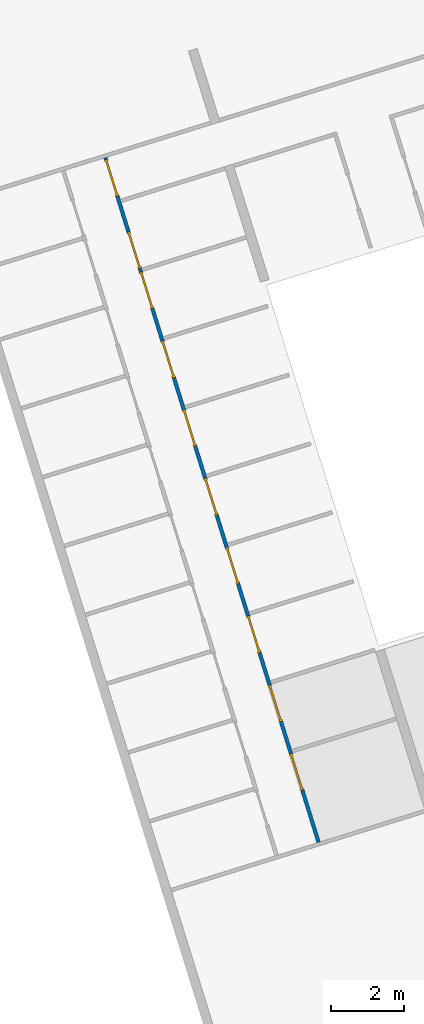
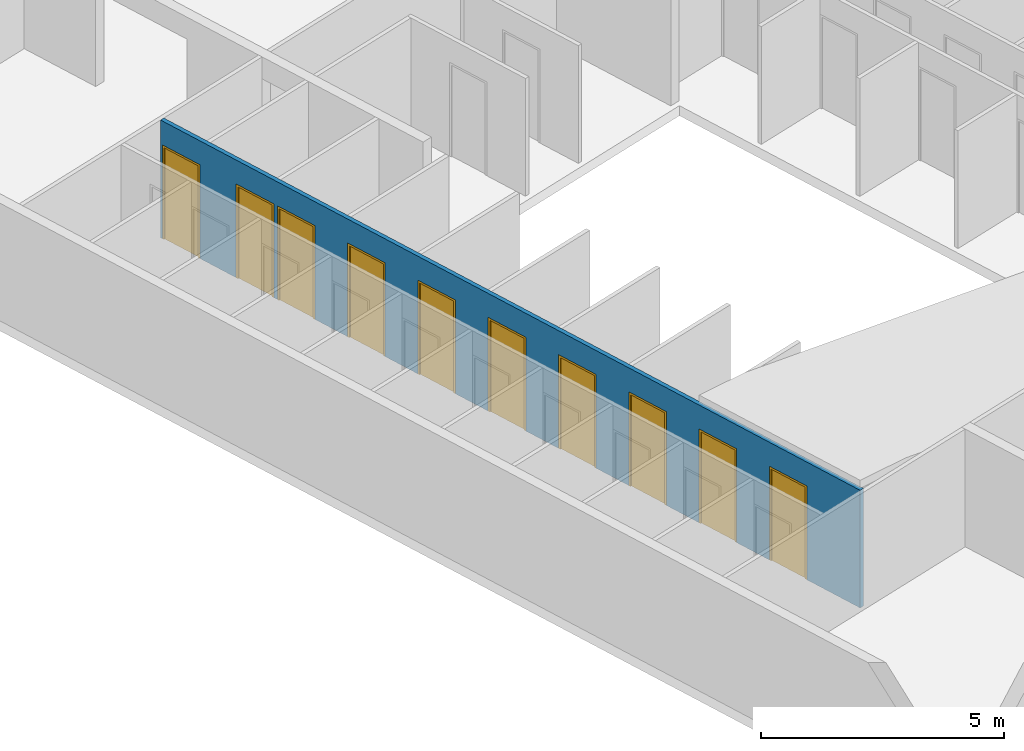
# One storey, part 5 of 7: 10 doors, 1 wall, 10 openings.
"""IFC4 building model written with IfcOpenShell, lengths in metres."""

from ifc_helpers import new_model, entity, si_unit, converted_unit, direction, frame, origin, place, context, subcontext, project, spatial, indexed_curve, outline, extrude, polygons, source, transform, mapped, material, constituent, constituent_set, type_object, element, fill, save


model = new_model("IFC4")

# Units and contexts
model_context = context("Model", 3, precision=1e-05, world=origin(), true_north=direction((6.12323399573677e-17, 1.0)))
body_context = subcontext(model_context, "Body", "Model", "MODEL_VIEW")
ifc_project = project(units=[si_unit("LENGTHUNIT", "METRE"), si_unit("AREAUNIT", "SQUARE_METRE"), si_unit("VOLUMEUNIT", "CUBIC_METRE"), converted_unit("PLANEANGLEUNIT", "DEGREE", entity("IfcPlaneAngleMeasure", 0.0174532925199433), si_unit("PLANEANGLEUNIT", "RADIAN"), dimensions=[0, 0, 0, 0, 0, 0, 0])], contexts=[model_context])

# Site, building, storey
site_placement = place(None, frame((13.1347999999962, 11.9886000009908, 0.0), z_axis=(0.0, 0.0, 1.0), x_axis=(0.954770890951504, 0.297342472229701, 0.0)))
site = spatial("IfcSite", under=ifc_project, at=site_placement, Name="Schiehaven", CompositionType="ELEMENT")
building_placement = place(site_placement, origin())
building = spatial("IfcBuilding", under=site, at=building_placement, Name="VORM huis", CompositionType="ELEMENT")
storey_placement = place(building_placement, frame((0.0, 0.0, -3.2)))
storey = spatial("IfcBuildingStorey", under=building, at=storey_placement, Name="-1 kelder", CompositionType="ELEMENT", Elevation=-3.2)

# Wall, openings, doors
ifc_material_1 = material(Name="ntb_ntb_ntb", Category="Miscellaneous")
wall_type = type_object("IfcWallType", Name="Basic Wall:22_WA_afbouw_binnenwand 100mm_gen", PredefinedType="STANDARD")
wall_placement = place(storey_placement, frame((9.35000000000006, 26.8249999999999, 0.0), z_axis=(0.0, 0.0, 1.0), x_axis=(0.0, -1.0, 0.0)))
wall = element("IfcWall", 1, at=wall_placement, inside=storey, type_object=wall_type, material=ifc_material_1, Name="Binnenwand", ObjectType="Wand", PredefinedType="NOTDEFINED", context=body_context, shape_type="Tessellation", body=[
    polygons([(14.1357142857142, -0.050000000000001, 0.0), (15.0499999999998, -0.0499999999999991, 0.0), (15.0499999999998, -0.0499999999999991, 2.34999999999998), (16.0999999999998, -0.0500000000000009, 2.34999999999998), (16.0999999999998, -0.0500000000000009, 0.0), (17.0142857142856, -0.049999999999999, 0.0), (17.0142857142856, -0.049999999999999, 2.34999999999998), (18.0642857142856, -0.0500000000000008, 2.34999999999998), (18.0642857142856, -0.0500000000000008, 0.0), (19.5499999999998, -0.0500000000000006, 0.0), (19.5499999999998, -0.0500000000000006, 2.95), (8.66293703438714e-15, -0.0500000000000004, 2.95), (0.0, -0.0500000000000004, 0.0), (0.0500000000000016, -0.0500000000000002, 0.0), (0.0500000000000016, -0.0500000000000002, 2.34999999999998), (1.10000000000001, -0.0499999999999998, 2.34999999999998), (1.10000000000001, -0.0499999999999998, 0.0), (2.1142857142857, -0.0500000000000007, 0.0), (2.11428571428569, -0.0500000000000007, 2.34999999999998), (3.1642857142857, -0.0500000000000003, 2.34999999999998), (3.1642857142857, -0.0500000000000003, 0.0), (3.26428571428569, -0.0499999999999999, 0.0), (3.26428571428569, -0.0499999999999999, 2.34999999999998), (4.31428571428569, -0.0500000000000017, 2.34999999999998), (4.31428571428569, -0.0500000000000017, 0.0), (5.22857142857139, -0.0499999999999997, 0.0), (5.22857142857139, -0.0499999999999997, 2.34999999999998), (6.27857142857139, -0.0500000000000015, 2.34999999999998), (6.27857142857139, -0.0500000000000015, 0.0), (7.19285714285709, -0.0499999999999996, 0.0), (7.19285714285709, -0.0499999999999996, 2.34999999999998), (8.24285714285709, -0.0500000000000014, 2.34999999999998), (8.24285714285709, -0.0500000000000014, 0.0), (9.15714285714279, -0.0499999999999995, 0.0), (9.15714285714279, -0.0499999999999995, 2.34999999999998), (10.2071428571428, -0.0500000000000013, 2.34999999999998), (10.2071428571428, -0.0500000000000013, 0.0), (11.1214285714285, -0.0499999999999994, 0.0), (11.1214285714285, -0.0499999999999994, 2.34999999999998), (12.1714285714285, -0.0500000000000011, 2.34999999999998), (12.1714285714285, -0.0500000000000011, 0.0), (13.0857142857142, -0.0499999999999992, 0.0), (13.0857142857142, -0.0499999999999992, 2.34999999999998), (14.1357142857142, -0.050000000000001, 2.34999999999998), (15.0499999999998, 0.0499999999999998, 2.34999999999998), (15.0499999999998, 0.0499999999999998, 0.0), (14.9499999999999, 0.0499999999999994, 0.0), (14.1357142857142, 0.0500000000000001, 0.0), (14.1357142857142, 0.0500000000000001, 2.34999999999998), (13.0857142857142, 0.0499999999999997, 2.34999999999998), (13.0857142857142, 0.0499999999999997, 0.0), (12.9857142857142, 0.0500000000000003, 0.0), (12.1714285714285, 0.0499999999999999, 0.0), (12.1714285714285, 0.0499999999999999, 2.34999999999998), (11.1214285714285, 0.0499999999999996, 2.34999999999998), (11.1214285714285, 0.0499999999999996, 0.0), (11.0214285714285, 0.0500000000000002, 0.0), (10.2071428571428, 0.0499999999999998, 0.0), (10.2071428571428, 0.0499999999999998, 2.34999999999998), (9.15714285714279, 0.0500000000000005, 2.34999999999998), (9.15714285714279, 0.0499999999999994, 0.0), (9.05714285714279, 0.0500000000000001, 0.0), (8.24285714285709, 0.0499999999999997, 0.0), (8.24285714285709, 0.0499999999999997, 2.34999999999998), (7.19285714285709, 0.0499999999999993, 2.34999999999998), (7.19285714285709, 0.0499999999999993, 0.0), (7.09285714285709, 0.05, 0.0), (6.27857142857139, 0.0499999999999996, 0.0), (6.27857142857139, 0.0499999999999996, 2.34999999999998), (5.22857142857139, 0.0500000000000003, 2.34999999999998), (5.22857142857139, 0.0500000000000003, 0.0), (5.12857142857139, 0.0499999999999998, 0.0), (4.31428571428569, 0.0499999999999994, 0.0), (4.31428571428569, 0.0499999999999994, 2.34999999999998), (3.26428571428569, 0.0500000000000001, 2.34999999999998), (3.26428571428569, 0.0500000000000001, 0.0), (3.1642857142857, 0.0499999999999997, 0.0), (3.1642857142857, 0.0499999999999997, 2.34999999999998), (2.11428571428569, 0.0499999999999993, 2.34999999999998), (2.1142857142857, 0.0499999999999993, 0.0), (1.30000000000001, 0.05, 0.0), (1.20000000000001, 0.0499999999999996, 0.0), (1.10000000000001, 0.0500000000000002, 0.0), (1.10000000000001, 0.0500000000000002, 2.34999999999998), (0.0500000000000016, 0.0499999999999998, 2.34999999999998), (0.0500000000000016, 0.0499999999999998, 0.0), (0.0, 0.0499999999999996, 0.0), (-4.33146851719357e-15, 0.0499999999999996, 2.95), (1.20000000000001, 0.0499999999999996, 2.95), (1.30000000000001, 0.05, 2.95), (3.16428571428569, 0.0499999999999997, 2.95), (3.26428571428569, 0.0500000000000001, 2.95), (5.12857142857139, 0.0499999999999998, 2.95), (5.22857142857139, 0.0500000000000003, 2.95), (7.09285714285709, 0.05, 2.95), (7.19285714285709, 0.0499999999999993, 2.95), (9.05714285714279, 0.0500000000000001, 2.95), (9.15714285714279, 0.0499999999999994, 2.95), (11.0214285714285, 0.0500000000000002, 2.95), (11.1214285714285, 0.0499999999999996, 2.95), (12.9857142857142, 0.0500000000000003, 2.95), (13.0857142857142, 0.0499999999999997, 2.95), (14.9499999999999, 0.0499999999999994, 2.95), (15.0499999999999, 0.0499999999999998, 2.95), (16.9142857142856, 0.0499999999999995, 2.95), (17.0142857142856, 0.05, 2.95), (19.5499999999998, 0.0499999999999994, 2.95), (19.5499999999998, 0.0499999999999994, 0.0), (18.0642857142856, 0.0500000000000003, 0.0), (18.0642857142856, 0.0500000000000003, 2.34999999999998), (17.0142857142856, 0.05, 2.34999999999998), (17.0142857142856, 0.05, 0.0), (16.9142857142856, 0.0499999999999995, 0.0), (16.0999999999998, 0.0500000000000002, 0.0), (16.0999999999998, 0.0500000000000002, 2.34999999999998)], [[[1, 2, 3, 4, 5, 6, 7, 8, 9, 10, 11, 12, 13, 14, 15, 16, 17, 18, 19, 20, 21, 22, 23, 24, 25, 26, 27, 28, 29, 30, 31, 32, 33, 34, 35, 36, 37, 38, 39, 40, 41, 42, 43, 44]], [[45, 46, 47, 48, 49, 50, 51, 52, 53, 54, 55, 56, 57, 58, 59, 60, 61, 62, 63, 64, 65, 66, 67, 68, 69, 70, 71, 72, 73, 74, 75, 76, 77, 78, 79, 80, 81, 82, 83, 84, 85, 86, 87, 88, 89, 90, 91, 92, 93, 94, 95, 96, 97, 98, 99, 100, 101, 102, 103, 104, 105, 106, 107, 108, 109, 110, 111, 112, 113, 114, 115]], [[14, 13, 87, 86]], [[12, 11, 107, 106, 105, 104, 103, 102, 101, 100, 99, 98, 97, 96, 95, 94, 93, 92, 91, 90, 89, 88]], [[21, 20, 78, 77]], [[19, 18, 80, 79]], [[20, 19, 79, 78]], [[29, 28, 69, 68]], [[27, 26, 71, 70]], [[28, 27, 70, 69]], [[33, 32, 64, 63]], [[31, 30, 66, 65]], [[32, 31, 65, 64]], [[41, 40, 54, 53]], [[39, 38, 56, 55]], [[40, 39, 55, 54]], [[1, 44, 49, 48]], [[43, 42, 51, 50]], [[44, 43, 50, 49]], [[13, 12, 88, 87]], [[86, 85, 15, 14]], [[84, 83, 17, 16]], [[85, 84, 16, 15]], [[11, 10, 108, 107]], [[9, 8, 110, 109]], [[7, 6, 112, 111]], [[8, 7, 111, 110]], [[5, 4, 115, 114]], [[3, 2, 46, 45]], [[4, 3, 45, 115]], [[36, 59, 58, 37]], [[60, 35, 34, 61]], [[59, 36, 35, 60]], [[24, 74, 73, 25]], [[75, 23, 22, 76]], [[23, 75, 74, 24]], [[18, 17, 83, 82, 81, 80]], [[21, 77, 76, 22]], [[29, 68, 67, 66, 30]], [[33, 63, 62, 61, 34]], [[109, 108, 10, 9]], [[71, 26, 25, 73, 72]], [[58, 57, 56, 38, 37]], [[53, 52, 51, 42, 41]], [[48, 47, 46, 2, 1]], [[114, 113, 112, 6, 5]]], closed=True),
])
opening_1_placement = place(wall_placement, frame((3.1642857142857, 0.0499999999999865, 0.0)))
opening_1 = element("IfcOpeningElement", 2, at=opening_1_placement, cuts=wall, Name="Binnendeur", PredefinedType="OPENING", context=body_context, shape_type="SweptSolid", body=[
    extrude(outline(indexed_curve([(2.34999999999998, 0.0), (2.34999999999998, 1.05), (0.0, 1.05), (0.0, 0.0), (2.34999999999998, 0.0)], self_intersect=False)), frame((0.0, 0.0, 0.0), z_axis=(0.0, -1.0, 0.0), x_axis=(0.0, 0.0, 1.0)), (0.0, 0.0, 1.0), 0.1),
])
opening_2_placement = place(wall_placement, frame((4.3142857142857, 0.0499999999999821, 0.0)))
opening_2 = element("IfcOpeningElement", 3, at=opening_2_placement, cuts=wall, Name="Binnendeur", PredefinedType="OPENING", context=body_context, shape_type="SweptSolid", body=[
    extrude(outline(indexed_curve([(2.34999999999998, 0.0), (2.34999999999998, 1.05), (0.0, 1.05), (0.0, 0.0), (2.34999999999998, 0.0)], self_intersect=False)), frame((0.0, 0.0, 0.0), z_axis=(0.0, -1.0, 0.0), x_axis=(0.0, 0.0, 1.0)), (0.0, 0.0, 1.0), 0.1),
])
opening_3_placement = place(wall_placement, frame((6.27857142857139, 0.0499999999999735, 0.0)))
opening_3 = element("IfcOpeningElement", 4, at=opening_3_placement, cuts=wall, Name="Binnendeur", PredefinedType="OPENING", context=body_context, shape_type="SweptSolid", body=[
    extrude(outline(indexed_curve([(2.34999999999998, 0.0), (2.34999999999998, 1.05), (0.0, 1.05), (0.0, 0.0), (2.34999999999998, 0.0)], self_intersect=False)), frame((0.0, 0.0, 0.0), z_axis=(0.0, -1.0, 0.0), x_axis=(0.0, 0.0, 1.0)), (0.0, 0.0, 1.0), 0.1),
])
opening_4_placement = place(wall_placement, frame((8.24285714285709, 0.0499999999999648, 0.0)))
opening_4 = element("IfcOpeningElement", 5, at=opening_4_placement, cuts=wall, Name="Binnendeur", PredefinedType="OPENING", context=body_context, shape_type="SweptSolid", body=[
    extrude(outline(indexed_curve([(2.34999999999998, 0.0), (2.34999999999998, 1.05), (0.0, 1.05), (0.0, 0.0), (2.34999999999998, 0.0)], self_intersect=False)), frame((0.0, 0.0, 0.0), z_axis=(0.0, -1.0, 0.0), x_axis=(0.0, 0.0, 1.0)), (0.0, 0.0, 1.0), 0.1),
])
opening_5_placement = place(wall_placement, frame((10.2071428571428, 0.0499999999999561, 0.0)))
opening_5 = element("IfcOpeningElement", 6, at=opening_5_placement, cuts=wall, Name="Binnendeur", PredefinedType="OPENING", context=body_context, shape_type="SweptSolid", body=[
    extrude(outline(indexed_curve([(2.34999999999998, 2.16573425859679e-15), (2.34999999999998, 1.05), (0.0, 1.05), (0.0, 2.16573425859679e-15), (2.34999999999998, 2.16573425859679e-15)], self_intersect=False)), frame((0.0, 0.0, 0.0), z_axis=(0.0, -1.0, 0.0), x_axis=(0.0, 0.0, 1.0)), (0.0, 0.0, 1.0), 0.1),
])
opening_6_placement = place(wall_placement, frame((12.1714285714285, 0.0499999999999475, 0.0)))
opening_6 = element("IfcOpeningElement", 7, at=opening_6_placement, cuts=wall, Name="Binnendeur", PredefinedType="OPENING", context=body_context, shape_type="SweptSolid", body=[
    extrude(outline(indexed_curve([(2.34999999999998, 2.16573425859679e-15), (2.34999999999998, 1.05), (0.0, 1.05), (0.0, 2.16573425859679e-15), (2.34999999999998, 2.16573425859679e-15)], self_intersect=False)), frame((0.0, 0.0, 0.0), z_axis=(0.0, -1.0, 0.0), x_axis=(0.0, 0.0, 1.0)), (0.0, 0.0, 1.0), 0.1),
])
opening_7_placement = place(wall_placement, frame((14.1357142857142, 0.0499999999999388, 0.0)))
opening_7 = element("IfcOpeningElement", 8, at=opening_7_placement, cuts=wall, Name="Binnendeur", PredefinedType="OPENING", context=body_context, shape_type="SweptSolid", body=[
    extrude(outline(indexed_curve([(2.34999999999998, 2.16573425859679e-15), (2.34999999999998, 1.05), (0.0, 1.05), (0.0, 2.16573425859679e-15), (2.34999999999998, 2.16573425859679e-15)], self_intersect=False)), frame((0.0, 0.0, 0.0), z_axis=(0.0, -1.0, 0.0), x_axis=(0.0, 0.0, 1.0)), (0.0, 0.0, 1.0), 0.1),
])
opening_8_placement = place(wall_placement, frame((0.0500000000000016, -0.0499999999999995, 0.0)))
opening_8 = element("IfcOpeningElement", 9, at=opening_8_placement, cuts=wall, Name="Vluchtdeur", PredefinedType="OPENING", context=body_context, shape_type="SweptSolid", body=[
    extrude(outline(indexed_curve([(2.34999999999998, -3.81562172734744e-32), (2.34999999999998, 1.05), (0.0, 1.05), (0.0, -3.81562172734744e-32), (2.34999999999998, -3.81562172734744e-32)], self_intersect=False)), frame((0.0, 0.0, 0.0), z_axis=(0.0, 1.0, 0.0), x_axis=(0.0, 0.0, 1.0)), (0.0, 0.0, 1.0), 0.1),
])
opening_9_placement = place(wall_placement, frame((18.0642857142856, 0.0499999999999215, 0.0)))
opening_9 = element("IfcOpeningElement", 10, at=opening_9_placement, cuts=wall, Name="Binnendeur", PredefinedType="OPENING", context=body_context, shape_type="SweptSolid", body=[
    extrude(outline(indexed_curve([(2.34999999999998, 0.0), (2.34999999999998, 1.05), (0.0, 1.05), (0.0, 0.0), (2.34999999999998, 0.0)], self_intersect=False)), frame((0.0, 0.0, 0.0), z_axis=(0.0, -1.0, 0.0), x_axis=(0.0, 0.0, 1.0)), (0.0, 0.0, 1.0), 0.1),
])
opening_10_placement = place(wall_placement, frame((16.0999999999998, 0.0499999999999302, 0.0)))
opening_10 = element("IfcOpeningElement", 11, at=opening_10_placement, cuts=wall, Name="Binnendeur", PredefinedType="OPENING", context=body_context, shape_type="SweptSolid", body=[
    extrude(outline(indexed_curve([(2.34999999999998, 2.16573425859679e-15), (2.34999999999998, 1.05), (0.0, 1.05), (0.0, 2.16573425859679e-15), (2.34999999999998, 2.16573425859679e-15)], self_intersect=False)), frame((0.0, 0.0, 0.0), z_axis=(0.0, -1.0, 0.0), x_axis=(0.0, 0.0, 1.0)), (0.0, 0.0, 1.0), 0.1),
])
ifc_material_2 = material(Name="PD_a_binnenwandopeningen", Category="Miscellaneous")
ifc_constituent_1 = constituent(ifc_material_2, Name="PD_a_binnenwandopeningen", Category="Miscellaneous")
ifc_material_3 = material(Name="metaal_aluminium_ntb", Category="Miscellaneous")
ifc_constituent_2 = constituent(ifc_material_3, Name="metaal_aluminium_ntb", Category="Miscellaneous")
ifc_constituent_set_1 = constituent_set(constituents=[ifc_constituent_1, ifc_constituent_2])
door_type_1 = type_object("IfcDoorType", Name="32_DO_binnendeur enkel:binnendeur zelfsluitend 30min", OperationType="NOTDEFINED", PredefinedType="DOOR")
shared_shape_1 = source(origin(), body_context, "Body", "SweptSolid", [
    extrude(outline(indexed_curve([(0.475, -1.16249999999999), (0.525, -1.16249999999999), (0.525, 1.18749999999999), (-0.525, 1.18749999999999), (-0.525, -1.16249999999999), (-0.475, -1.16249999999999), (-0.475, 1.13749999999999), (0.475, 1.13749999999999), (0.475, -1.16249999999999)], self_intersect=False)), frame((0.525000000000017, 0.100000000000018, 1.16249999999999), z_axis=(0.0, -1.0, 0.0), x_axis=(1.0, 0.0, 0.0)), (0.0, 0.0, 1.0), 0.1),
    extrude(outline(indexed_curve([(-0.475, -0.025), (0.475, -0.025), (0.475, 0.025), (-0.475, 0.025), (-0.475, -0.025)], self_intersect=False)), frame((0.525000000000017, 0.0499999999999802, 0.0)), (0.0, 0.0, 1.0), 2.29999999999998),
])
door_1_placement = place(opening_8_placement, origin())
door_1 = element("IfcDoor", 12, at=door_1_placement, inside=storey, type_object=door_type_1, material=ifc_constituent_set_1, Name="Vluchtdeur", ObjectType="Deur", OperationType="NOTDEFINED", OverallHeight=2.34999999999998, OverallWidth=1.05, PredefinedType="DOOR", context=body_context, shape_type="MappedRepresentation", body=[
    mapped(shared_shape_1, transform((0.0, 0.0, 0.0), scale=1.0)),
])
fill(opening_8, door_1)
ifc_constituent_3 = constituent(ifc_material_2, Name="PD_a_binnenwandopeningen", Category="Miscellaneous")
ifc_constituent_4 = constituent(ifc_material_3, Name="metaal_aluminium_ntb", Category="Miscellaneous")
ifc_constituent_set_2 = constituent_set(constituents=[ifc_constituent_3, ifc_constituent_4])
door_type_2 = type_object("IfcDoorType", Name="32_DO_binnendeur enkel:binnendeur", OperationType="REVOLVING", PredefinedType="DOOR")
shared_shape_2 = source(origin(), body_context, "Body", "SweptSolid", [
    extrude(outline(indexed_curve([(0.475, -1.16249999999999), (0.525, -1.16249999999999), (0.525, 1.18749999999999), (-0.525, 1.18749999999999), (-0.525, -1.16249999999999), (-0.475, -1.16249999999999), (-0.475, 1.13749999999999), (0.475, 1.13749999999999), (0.475, -1.16249999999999)], self_intersect=False)), frame((0.525000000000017, 0.100000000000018, 1.16249999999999), z_axis=(0.0, -1.0, 0.0), x_axis=(1.0, 0.0, 0.0)), (0.0, 0.0, 1.0), 0.1),
    extrude(outline(indexed_curve([(-0.475, -0.025), (0.475, -0.025), (0.475, 0.025), (-0.475, 0.025), (-0.475, -0.025)], self_intersect=False)), frame((0.525000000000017, 0.0499999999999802, 0.0)), (0.0, 0.0, 1.0), 2.29999999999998),
])
door_2_placement = place(opening_1_placement, frame((0.0, 0.0, 0.0), z_axis=(0.0, 0.0, 1.0), x_axis=(-1.0, 0.0, 0.0)))
door_2 = element("IfcDoor", 13, at=door_2_placement, inside=storey, type_object=door_type_2, material=ifc_constituent_set_2, Name="Binnendeur", ObjectType="Deur", OperationType="REVOLVING", OverallHeight=2.34999999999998, OverallWidth=1.05, PredefinedType="DOOR", context=body_context, shape_type="MappedRepresentation", body=[
    mapped(shared_shape_2, transform((0.0, 0.0, 0.0), scale=1.0)),
])
fill(opening_1, door_2)
ifc_constituent_5 = constituent(ifc_material_2, Name="PD_a_binnenwandopeningen", Category="Miscellaneous")
ifc_constituent_6 = constituent(ifc_material_3, Name="metaal_aluminium_ntb", Category="Miscellaneous")
ifc_constituent_set_3 = constituent_set(constituents=[ifc_constituent_5, ifc_constituent_6])
door_3_placement = place(opening_2_placement, frame((0.0, 0.0, 0.0), z_axis=(0.0, 0.0, 1.0), x_axis=(-1.0, 0.0, 0.0)))
door_3 = element("IfcDoor", 14, at=door_3_placement, inside=storey, type_object=door_type_2, material=ifc_constituent_set_3, Name="Binnendeur", ObjectType="Deur", OperationType="REVOLVING", OverallHeight=2.34999999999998, OverallWidth=1.05, PredefinedType="DOOR", context=body_context, shape_type="MappedRepresentation", body=[
    mapped(shared_shape_2, transform((0.0, 0.0, 0.0), scale=1.0)),
])
fill(opening_2, door_3)
ifc_constituent_7 = constituent(ifc_material_2, Name="PD_a_binnenwandopeningen", Category="Miscellaneous")
ifc_constituent_8 = constituent(ifc_material_3, Name="metaal_aluminium_ntb", Category="Miscellaneous")
ifc_constituent_set_4 = constituent_set(constituents=[ifc_constituent_7, ifc_constituent_8])
door_4_placement = place(opening_3_placement, frame((0.0, 0.0, 0.0), z_axis=(0.0, 0.0, 1.0), x_axis=(-1.0, 0.0, 0.0)))
door_4 = element("IfcDoor", 15, at=door_4_placement, inside=storey, type_object=door_type_2, material=ifc_constituent_set_4, Name="Binnendeur", ObjectType="Deur", OperationType="REVOLVING", OverallHeight=2.34999999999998, OverallWidth=1.05, PredefinedType="DOOR", context=body_context, shape_type="MappedRepresentation", body=[
    mapped(shared_shape_2, transform((0.0, 0.0, 0.0), scale=1.0)),
])
fill(opening_3, door_4)
ifc_constituent_9 = constituent(ifc_material_2, Name="PD_a_binnenwandopeningen", Category="Miscellaneous")
ifc_constituent_10 = constituent(ifc_material_3, Name="metaal_aluminium_ntb", Category="Miscellaneous")
ifc_constituent_set_5 = constituent_set(constituents=[ifc_constituent_9, ifc_constituent_10])
door_5_placement = place(opening_4_placement, frame((0.0, 0.0, 0.0), z_axis=(0.0, 0.0, 1.0), x_axis=(-1.0, 0.0, 0.0)))
door_5 = element("IfcDoor", 16, at=door_5_placement, inside=storey, type_object=door_type_2, material=ifc_constituent_set_5, Name="Binnendeur", ObjectType="Deur", OperationType="REVOLVING", OverallHeight=2.34999999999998, OverallWidth=1.05, PredefinedType="DOOR", context=body_context, shape_type="MappedRepresentation", body=[
    mapped(shared_shape_2, transform((0.0, 0.0, 0.0), scale=1.0)),
])
fill(opening_4, door_5)
ifc_constituent_11 = constituent(ifc_material_2, Name="PD_a_binnenwandopeningen", Category="Miscellaneous")
ifc_constituent_12 = constituent(ifc_material_3, Name="metaal_aluminium_ntb", Category="Miscellaneous")
ifc_constituent_set_6 = constituent_set(constituents=[ifc_constituent_11, ifc_constituent_12])
door_6_placement = place(opening_5_placement, frame((0.0, 0.0, 0.0), z_axis=(0.0, 0.0, 1.0), x_axis=(-1.0, 0.0, 0.0)))
door_6 = element("IfcDoor", 17, at=door_6_placement, inside=storey, type_object=door_type_2, material=ifc_constituent_set_6, Name="Binnendeur", ObjectType="Deur", OperationType="REVOLVING", OverallHeight=2.34999999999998, OverallWidth=1.05, PredefinedType="DOOR", context=body_context, shape_type="MappedRepresentation", body=[
    mapped(shared_shape_2, transform((0.0, 0.0, 0.0), scale=1.0)),
])
fill(opening_5, door_6)
ifc_constituent_13 = constituent(ifc_material_2, Name="PD_a_binnenwandopeningen", Category="Miscellaneous")
ifc_constituent_14 = constituent(ifc_material_3, Name="metaal_aluminium_ntb", Category="Miscellaneous")
ifc_constituent_set_7 = constituent_set(constituents=[ifc_constituent_13, ifc_constituent_14])
door_7_placement = place(opening_6_placement, frame((0.0, 0.0, 0.0), z_axis=(0.0, 0.0, 1.0), x_axis=(-1.0, 0.0, 0.0)))
door_7 = element("IfcDoor", 18, at=door_7_placement, inside=storey, type_object=door_type_2, material=ifc_constituent_set_7, Name="Binnendeur", ObjectType="Deur", OperationType="REVOLVING", OverallHeight=2.34999999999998, OverallWidth=1.05, PredefinedType="DOOR", context=body_context, shape_type="MappedRepresentation", body=[
    mapped(shared_shape_2, transform((0.0, 0.0, 0.0), scale=1.0)),
])
fill(opening_6, door_7)
ifc_constituent_15 = constituent(ifc_material_2, Name="PD_a_binnenwandopeningen", Category="Miscellaneous")
ifc_constituent_16 = constituent(ifc_material_3, Name="metaal_aluminium_ntb", Category="Miscellaneous")
ifc_constituent_set_8 = constituent_set(constituents=[ifc_constituent_15, ifc_constituent_16])
door_8_placement = place(opening_7_placement, frame((0.0, 0.0, 0.0), z_axis=(0.0, 0.0, 1.0), x_axis=(-1.0, 0.0, 0.0)))
door_8 = element("IfcDoor", 19, at=door_8_placement, inside=storey, type_object=door_type_2, material=ifc_constituent_set_8, Name="Binnendeur", ObjectType="Deur", OperationType="REVOLVING", OverallHeight=2.34999999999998, OverallWidth=1.05, PredefinedType="DOOR", context=body_context, shape_type="MappedRepresentation", body=[
    mapped(shared_shape_2, transform((0.0, 0.0, 0.0), scale=1.0)),
])
fill(opening_7, door_8)
ifc_constituent_17 = constituent(ifc_material_2, Name="PD_a_binnenwandopeningen", Category="Miscellaneous")
ifc_constituent_18 = constituent(ifc_material_3, Name="metaal_aluminium_ntb", Category="Miscellaneous")
ifc_constituent_set_9 = constituent_set(constituents=[ifc_constituent_17, ifc_constituent_18])
door_9_placement = place(opening_9_placement, frame((0.0, 0.0, 0.0), z_axis=(0.0, 0.0, 1.0), x_axis=(-1.0, 0.0, 0.0)))
door_9 = element("IfcDoor", 20, at=door_9_placement, inside=storey, type_object=door_type_2, material=ifc_constituent_set_9, Name="Binnendeur", ObjectType="Deur", OperationType="REVOLVING", OverallHeight=2.34999999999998, OverallWidth=1.05, PredefinedType="DOOR", context=body_context, shape_type="MappedRepresentation", body=[
    mapped(shared_shape_2, transform((0.0, 0.0, 0.0), scale=1.0)),
])
fill(opening_9, door_9)
ifc_constituent_19 = constituent(ifc_material_2, Name="PD_a_binnenwandopeningen", Category="Miscellaneous")
ifc_constituent_20 = constituent(ifc_material_3, Name="metaal_aluminium_ntb", Category="Miscellaneous")
ifc_constituent_set_10 = constituent_set(constituents=[ifc_constituent_19, ifc_constituent_20])
door_10_placement = place(opening_10_placement, frame((0.0, 0.0, 0.0), z_axis=(0.0, 0.0, 1.0), x_axis=(-1.0, 0.0, 0.0)))
door_10 = element("IfcDoor", 21, at=door_10_placement, inside=storey, type_object=door_type_2, material=ifc_constituent_set_10, Name="Binnendeur", ObjectType="Deur", OperationType="REVOLVING", OverallHeight=2.34999999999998, OverallWidth=1.05, PredefinedType="DOOR", context=body_context, shape_type="MappedRepresentation", body=[
    mapped(shared_shape_2, transform((0.0, 0.0, 0.0), scale=1.0)),
])
fill(opening_10, door_10)

save(model, "model.ifc")
